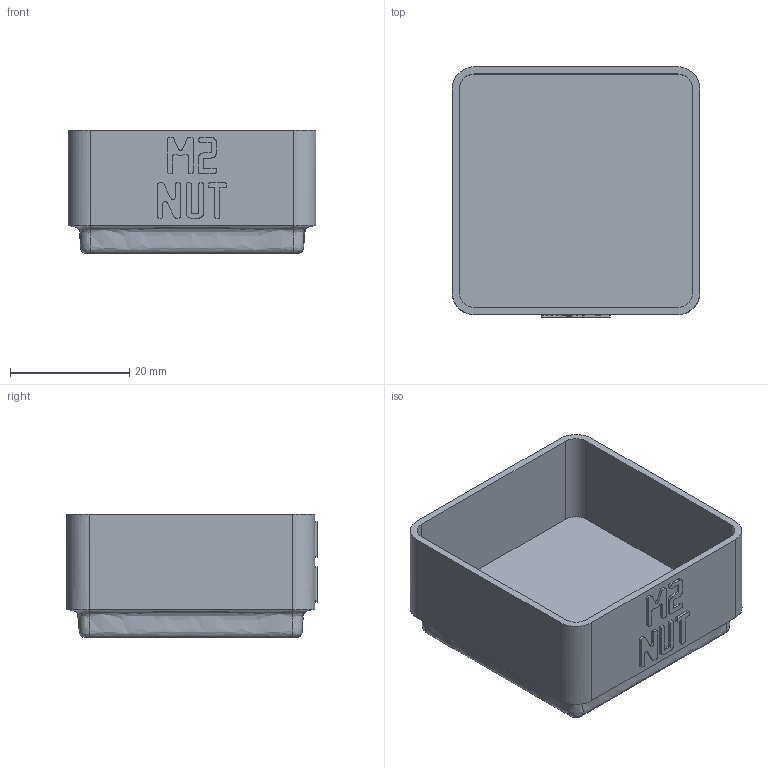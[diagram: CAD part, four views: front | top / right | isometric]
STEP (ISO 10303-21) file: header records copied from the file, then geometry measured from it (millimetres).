
FILE_DESCRIPTION(('Open CASCADE Model'),'2;1');
FILE_NAME('Open CASCADE Shape Model','2026-11-03T15:27:44',('Author'),( 'Open CASCADE'),'Open CASCADE STEP processor 8.0','build123d', 'Unknown');
FILE_SCHEMA(('AUTOMOTIVE_DESIGN { 1 0 10303 214 1 1 1 1 }'));
Length unit declared in the file: millimetre
Products named in the file (1): COMPOUND
Bounding box: 41.5 x 41.9 x 20.75 mm (x, y, z)
Volume: 9649.5 mm3; surface area: 8986 mm2
Topology: 1 solids, 1 shells, 487 faces, 1429 edges, 950 vertices
Faces by surface type: plane 471, bspline 8, cylinder 8
Entity records: 33936 total; most frequent: CARTESIAN_POINT 7223, DIRECTION 4293, LINE 3305, VECTOR 3305, ORIENTED_EDGE 2858, PCURVE 2858, DEFINITIONAL_REPRESENTATION 2858, EDGE_CURVE 1429
